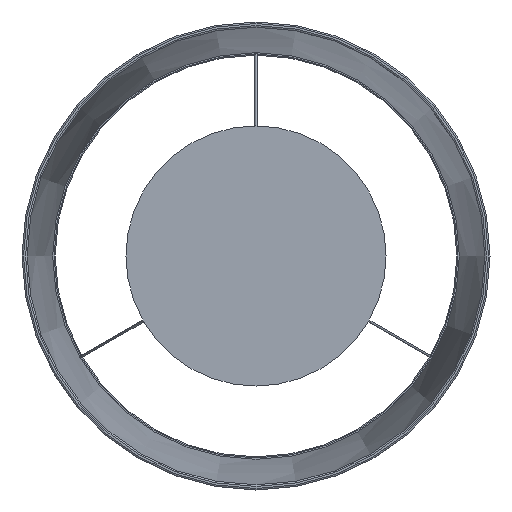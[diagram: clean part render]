
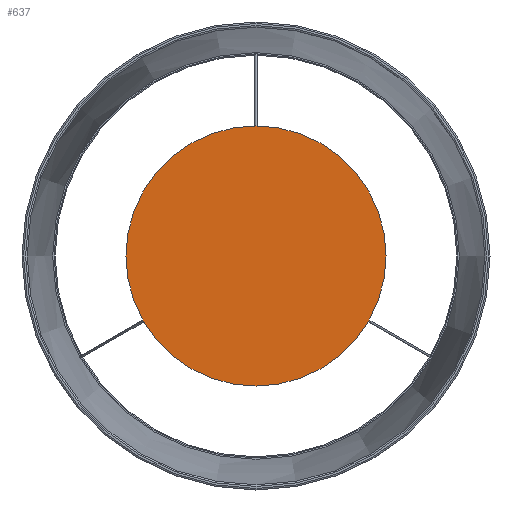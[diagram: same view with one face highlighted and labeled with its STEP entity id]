
A CAD part, front view. The second image highlights one B-rep face of the part: STEP entity #637.
In plain terms, the highlighted planar face has unit normal (0, -1, 0).
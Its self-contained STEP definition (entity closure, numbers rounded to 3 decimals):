
#76=PLANE('',#733);
#111=FACE_OUTER_BOUND('',#168,.T.);
#168=EDGE_LOOP('',(#493));
#255=CIRCLE('',#731,125.);
#317=VERTEX_POINT('',#1246);
#381=EDGE_CURVE('',#317,#317,#255,.T.);
#493=ORIENTED_EDGE('',*,*,#381,.F.);
#637=ADVANCED_FACE('',(#111),#76,.F.);
#731=AXIS2_PLACEMENT_3D('',#1248,#896,#897);
#733=AXIS2_PLACEMENT_3D('',#1250,#900,#901);
#896=DIRECTION('center_axis',(0.,1.,0.));
#897=DIRECTION('ref_axis',(1.,0.,0.));
#900=DIRECTION('center_axis',(0.,1.,0.));
#901=DIRECTION('ref_axis',(1.,0.,0.));
#1246=CARTESIAN_POINT('',(-125.,0.,0.));
#1248=CARTESIAN_POINT('Origin',(0.,0.,0.));
#1250=CARTESIAN_POINT('Origin',(0.,0.,0.));
